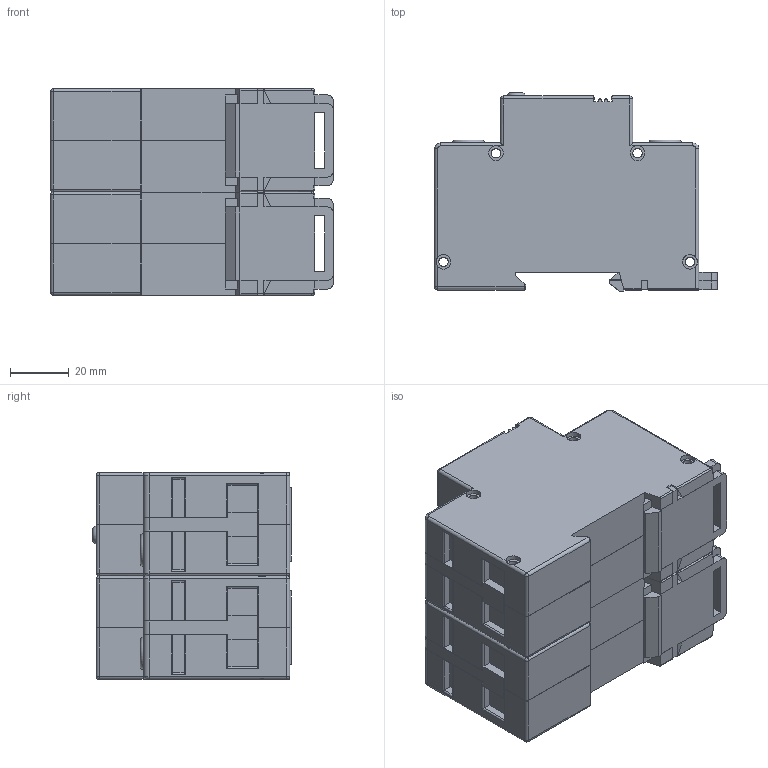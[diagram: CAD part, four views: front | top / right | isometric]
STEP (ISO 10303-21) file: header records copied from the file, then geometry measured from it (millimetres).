
FILE_DESCRIPTION(/* description */ (''),/* implementation_level */ '2;1');
FILE_NAME(/* name */ 'K:\PROJEKTY ROZPRACOVANÉ\MODELY DO KATALOGU\HS, HLA\3D - STEP\HLA50 2+0 LED.stp',/* time_stamp */ '2021-11-04T08:05:03+01:00',/* author */ ('miko'),/* organization */ (''),/* preprocessor_version */ 'ST-DEVELOPER v18.1',/* originating_system */ 'Autodesk Inventor 2022',/* authorisation */ '');
FILE_SCHEMA (('AUTOMOTIVE_DESIGN { 1 0 10303 214 3 1 1 }'));
Length unit declared in the file: millimetre
Products named in the file (6): HLA50 2+0 LED; HLA LED; HLA LED_1; HS50-50; PI-k8; DIN 7985 (H) - M6x10-H
Assembly tree (8 placements, depth 3):
  HLA50 2+0 LED
    HLA LED
      HLA LED_1
      DIN 7985 (H) - M6x10-H  x2
    HS50-50
      PI-k8
      DIN 7985 (H) - M6x10-H  x2
Bounding box: 96.3 x 67.7 x 70.4 mm (x, y, z)
Volume: 348877.1 mm3; surface area: 52622.9 mm2
Topology: 6 solids, 8 shells, 900 faces, 2433 edges, 1540 vertices
Faces by surface type: plane 597, cylinder 198, cone 64, sphere 16, bspline 16, torus 9
Full cylindrical faces by diameter (mm): 3.2 x8, 5 x16, 5.5 x4, 6 x4, 8 x4
Entity records: 24788 total; most frequent: CARTESIAN_POINT 4506, ORIENTED_EDGE 4242, DIRECTION 4129, EDGE_CURVE 2121, LINE 1617, VECTOR 1617, VERTEX_POINT 1333, AXIS2_PLACEMENT_3D 1256
